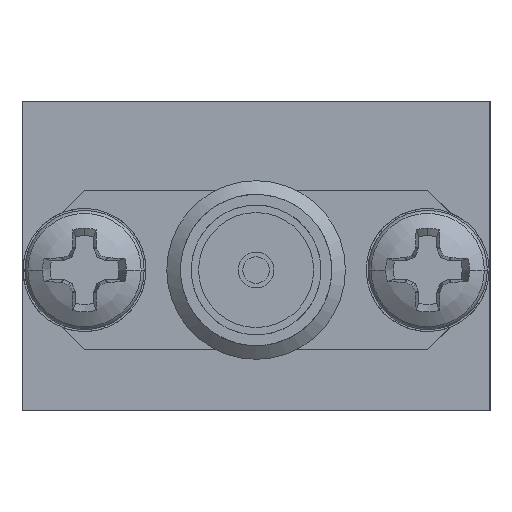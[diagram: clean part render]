
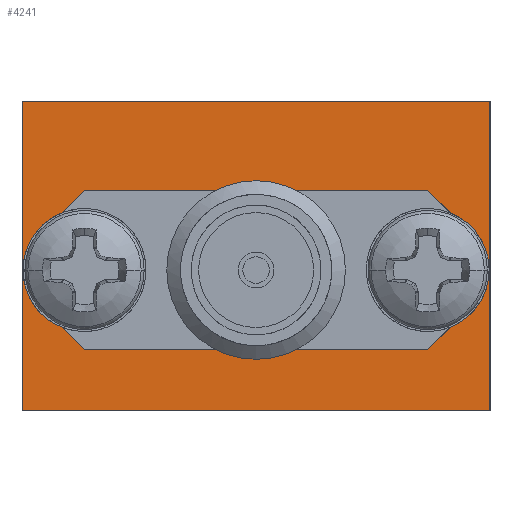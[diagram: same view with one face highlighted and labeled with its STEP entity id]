
A CAD part, left-side view. The second image highlights one B-rep face of the part: STEP entity #4241.
In plain terms, the highlighted planar face has unit normal (-1, 0, 0).
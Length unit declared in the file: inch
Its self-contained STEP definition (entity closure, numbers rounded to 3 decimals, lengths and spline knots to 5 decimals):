
#557=FACE_BOUND('',#821,.T.);
#575=FACE_OUTER_BOUND('',#820,.T.);
#820=EDGE_LOOP('',(#2772,#2773,#2774,#2775));
#821=EDGE_LOOP('',(#2776,#2777,#2778,#2779,#2780,#2781,#2782,#2783));
#1092=LINE('',#6359,#1362);
#1093=LINE('',#6361,#1363);
#1094=LINE('',#6363,#1364);
#1095=LINE('',#6364,#1365);
#1096=LINE('',#6367,#1366);
#1097=LINE('',#6369,#1367);
#1098=LINE('',#6371,#1368);
#1099=LINE('',#6373,#1369);
#1100=LINE('',#6375,#1370);
#1101=LINE('',#6377,#1371);
#1102=LINE('',#6379,#1372);
#1103=LINE('',#6380,#1373);
#1362=VECTOR('',#5028,1.);
#1363=VECTOR('',#5029,1.);
#1364=VECTOR('',#5030,1.);
#1365=VECTOR('',#5031,1.);
#1366=VECTOR('',#5032,1.);
#1367=VECTOR('',#5033,1.);
#1368=VECTOR('',#5034,1.);
#1369=VECTOR('',#5035,1.);
#1370=VECTOR('',#5036,1.);
#1371=VECTOR('',#5037,1.);
#1372=VECTOR('',#5038,1.);
#1373=VECTOR('',#5039,1.);
#1632=VERTEX_POINT('',#6357);
#1633=VERTEX_POINT('',#6358);
#1634=VERTEX_POINT('',#6360);
#1635=VERTEX_POINT('',#6362);
#1636=VERTEX_POINT('',#6365);
#1637=VERTEX_POINT('',#6366);
#1638=VERTEX_POINT('',#6368);
#1639=VERTEX_POINT('',#6370);
#1640=VERTEX_POINT('',#6372);
#1641=VERTEX_POINT('',#6374);
#1642=VERTEX_POINT('',#6376);
#1643=VERTEX_POINT('',#6378);
#2090=EDGE_CURVE('',#1632,#1633,#1092,.T.);
#2091=EDGE_CURVE('',#1632,#1634,#1093,.T.);
#2092=EDGE_CURVE('',#1635,#1634,#1094,.T.);
#2093=EDGE_CURVE('',#1633,#1635,#1095,.T.);
#2094=EDGE_CURVE('',#1636,#1637,#1096,.T.);
#2095=EDGE_CURVE('',#1637,#1638,#1097,.T.);
#2096=EDGE_CURVE('',#1638,#1639,#1098,.T.);
#2097=EDGE_CURVE('',#1639,#1640,#1099,.T.);
#2098=EDGE_CURVE('',#1640,#1641,#1100,.T.);
#2099=EDGE_CURVE('',#1641,#1642,#1101,.T.);
#2100=EDGE_CURVE('',#1642,#1643,#1102,.T.);
#2101=EDGE_CURVE('',#1643,#1636,#1103,.T.);
#2772=ORIENTED_EDGE('',*,*,#2090,.F.);
#2773=ORIENTED_EDGE('',*,*,#2091,.T.);
#2774=ORIENTED_EDGE('',*,*,#2092,.F.);
#2775=ORIENTED_EDGE('',*,*,#2093,.F.);
#2776=ORIENTED_EDGE('',*,*,#2094,.T.);
#2777=ORIENTED_EDGE('',*,*,#2095,.T.);
#2778=ORIENTED_EDGE('',*,*,#2096,.T.);
#2779=ORIENTED_EDGE('',*,*,#2097,.T.);
#2780=ORIENTED_EDGE('',*,*,#2098,.T.);
#2781=ORIENTED_EDGE('',*,*,#2099,.T.);
#2782=ORIENTED_EDGE('',*,*,#2100,.T.);
#2783=ORIENTED_EDGE('',*,*,#2101,.T.);
#4125=PLANE('',#4487);
#4241=ADVANCED_FACE('',(#575,#557),#4125,.T.);
#4487=AXIS2_PLACEMENT_3D('',#6356,#5026,#5027);
#5026=DIRECTION('center_axis',(-1.,0.,0.));
#5027=DIRECTION('ref_axis',(0.,-1.,0.));
#5028=DIRECTION('',(0.,1.,0.));
#5029=DIRECTION('',(0.,0.,1.));
#5030=DIRECTION('',(0.,-1.,0.));
#5031=DIRECTION('',(0.,0.,1.));
#5032=DIRECTION('',(0.,-1.,0.));
#5033=DIRECTION('',(0.,-0.707,-0.707));
#5034=DIRECTION('',(0.,0.,-1.));
#5035=DIRECTION('',(0.,0.707,-0.707));
#5036=DIRECTION('',(0.,1.,0.));
#5037=DIRECTION('',(0.,0.707,0.707));
#5038=DIRECTION('',(0.,0.,1.));
#5039=DIRECTION('',(0.,-0.707,0.707));
#6356=CARTESIAN_POINT('Origin',(0.,0.655,
0.));
#6357=CARTESIAN_POINT('',(0.,0.,0.));
#6358=CARTESIAN_POINT('',(0.,0.655,0.));
#6359=CARTESIAN_POINT('',(0.,0.,0.));
#6360=CARTESIAN_POINT('',(0.,0.,0.433));
#6361=CARTESIAN_POINT('',(0.,0.,0.));
#6362=CARTESIAN_POINT('',(0.,0.655,0.433));
#6363=CARTESIAN_POINT('',(0.,0.,0.433));
#6364=CARTESIAN_POINT('',(0.,0.655,0.));
#6365=CARTESIAN_POINT('',(0.,0.56785,0.30785));
#6366=CARTESIAN_POINT('',(0.,0.08685,0.30785));
#6367=CARTESIAN_POINT('',(0.,0.56785,0.30785));
#6368=CARTESIAN_POINT('',(0.,0.01235,0.23335));
#6369=CARTESIAN_POINT('',(0.,0.08685,0.30785));
#6370=CARTESIAN_POINT('',(0.,0.01235,0.16035));
#6371=CARTESIAN_POINT('',(0.,0.01235,0.23335));
#6372=CARTESIAN_POINT('',(0.,0.08685,0.08585));
#6373=CARTESIAN_POINT('',(0.,0.01235,0.16035));
#6374=CARTESIAN_POINT('',(0.,0.56785,0.08585));
#6375=CARTESIAN_POINT('',(0.,0.08685,0.08585));
#6376=CARTESIAN_POINT('',(0.,0.64235,0.16035));
#6377=CARTESIAN_POINT('',(0.,0.56785,0.08585));
#6378=CARTESIAN_POINT('',(0.,0.64235,0.23335));
#6379=CARTESIAN_POINT('',(0.,0.64235,0.16035));
#6380=CARTESIAN_POINT('',(0.,0.64235,0.23335));
